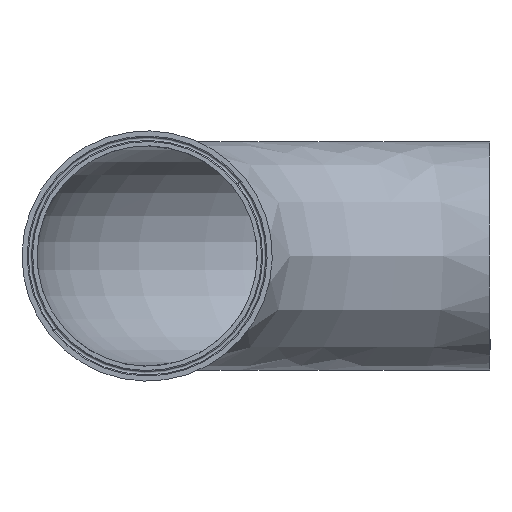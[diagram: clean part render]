
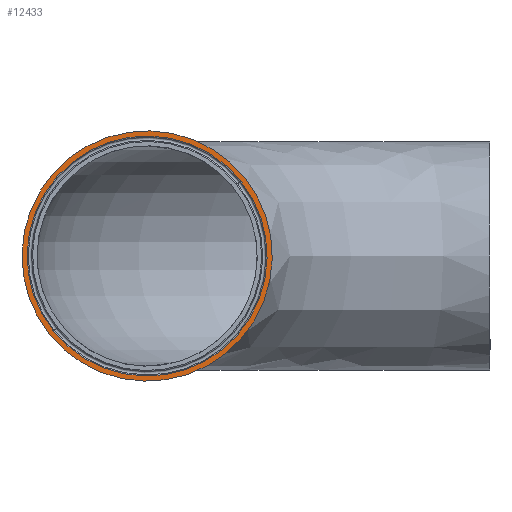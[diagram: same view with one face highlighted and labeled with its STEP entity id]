
A CAD part, left-side view. The second image highlights one B-rep face of the part: STEP entity #12433.
In plain terms, the highlighted planar face has unit normal (-1, 0, 0).
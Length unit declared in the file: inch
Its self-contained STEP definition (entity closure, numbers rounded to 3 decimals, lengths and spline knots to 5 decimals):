
#60 = EDGE_CURVE ( 'NONE', #11829, #9006, #455, .T. ) ;
#78 = DIRECTION ( 'NONE',  ( -1., 0., 0. ) ) ;
#429 = CARTESIAN_POINT ( 'NONE',  ( -0.17835, 12.86864, 12.32894 ) ) ;
#430 = AXIS2_PLACEMENT_3D ( 'NONE', #747, #8118, #1816 ) ;
#451 = AXIS2_PLACEMENT_3D ( 'NONE', #10308, #4001, #11360 ) ;
#455 = CIRCLE ( 'NONE', #430, 3.285 ) ;
#591 = ORIENTED_EDGE ( 'NONE', *, *, #752, .F. ) ;
#747 = CARTESIAN_POINT ( 'NONE',  ( -0.17835, 12.86864, 12.32894 ) ) ;
#752 = EDGE_CURVE ( 'NONE', #13258, #13266, #13442, .T. ) ;
#877 = EDGE_LOOP ( 'NONE', ( #591, #13582 ) ) ;
#1003 = CARTESIAN_POINT ( 'NONE',  ( -0.17835, 10.41126, 14.299 ) ) ;
#1122 = EDGE_CURVE ( 'NONE', #13266, #13258, #10332, .T. ) ;
#1137 = AXIS2_PLACEMENT_3D ( 'NONE', #429, #7809, #1503 ) ;
#1503 = DIRECTION ( 'NONE',  ( 0., 0.78, -0.626 ) ) ;
#1596 = ORIENTED_EDGE ( 'NONE', *, *, #60, .T. ) ;
#1816 = DIRECTION ( 'NONE',  ( 0., 0.78, -0.626 ) ) ;
#2450 = ORIENTED_EDGE ( 'NONE', *, *, #5206, .T. ) ;
#2850 = FACE_BOUND ( 'NONE', #877, .T. ) ;
#2876 = CIRCLE ( 'NONE', #5761, 3.285 ) ;
#3528 = FACE_OUTER_BOUND ( 'NONE', #7400, .T. ) ;
#4001 = DIRECTION ( 'NONE',  ( 1., 0., 0. ) ) ;
#4694 = DIRECTION ( 'NONE',  ( -1., 0., 0. ) ) ;
#5186 = CARTESIAN_POINT ( 'NONE',  ( -0.17835, 15.43167, 10.27417 ) ) ;
#5206 = EDGE_CURVE ( 'NONE', #9006, #11829, #2876, .T. ) ;
#5761 = AXIS2_PLACEMENT_3D ( 'NONE', #6401, #78, #7460 ) ;
#6401 = CARTESIAN_POINT ( 'NONE',  ( -0.17835, 12.86864, 12.32894 ) ) ;
#7314 = CARTESIAN_POINT ( 'NONE',  ( -0.17835, 15.32601, 10.35887 ) ) ;
#7400 = EDGE_LOOP ( 'NONE', ( #2450, #1596 ) ) ;
#7460 = DIRECTION ( 'NONE',  ( 0., 0.78, -0.626 ) ) ;
#7809 = DIRECTION ( 'NONE',  ( -1., 0., 0. ) ) ;
#8118 = DIRECTION ( 'NONE',  ( -1., 0., 0. ) ) ;
#9006 = VERTEX_POINT ( 'NONE', #5186 ) ;
#9249 = PLANE ( 'NONE',  #451 ) ;
#9279 = AXIS2_PLACEMENT_3D ( 'NONE', #10997, #4694, #12046 ) ;
#10308 = CARTESIAN_POINT ( 'NONE',  ( -0.17835, 12.86864, 12.32894 ) ) ;
#10332 = CIRCLE ( 'NONE', #1137, 3.14958 ) ;
#10997 = CARTESIAN_POINT ( 'NONE',  ( -0.17835, 12.86864, 12.32894 ) ) ;
#11360 = DIRECTION ( 'NONE',  ( 0., -0.78, 0.626 ) ) ;
#11829 = VERTEX_POINT ( 'NONE', #12871 ) ;
#12046 = DIRECTION ( 'NONE',  ( 0., 0.78, -0.626 ) ) ;
#12433 = ADVANCED_FACE ( 'NONE', ( #2850, #3528 ), #9249, .F. ) ;
#12871 = CARTESIAN_POINT ( 'NONE',  ( -0.17835, 10.3056, 14.38371 ) ) ;
#13258 = VERTEX_POINT ( 'NONE', #7314 ) ;
#13266 = VERTEX_POINT ( 'NONE', #1003 ) ;
#13442 = CIRCLE ( 'NONE', #9279, 3.14958 ) ;
#13582 = ORIENTED_EDGE ( 'NONE', *, *, #1122, .F. ) ;
